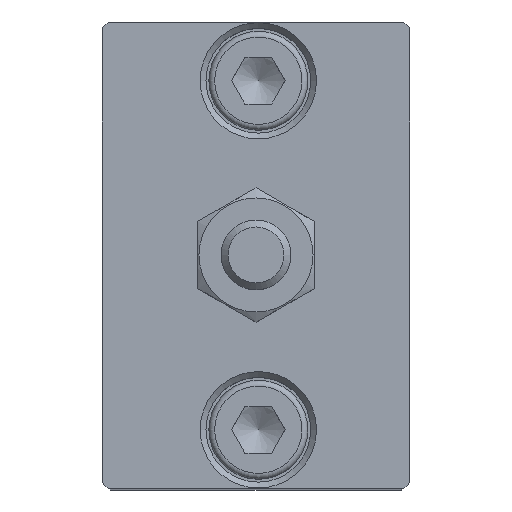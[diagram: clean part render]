
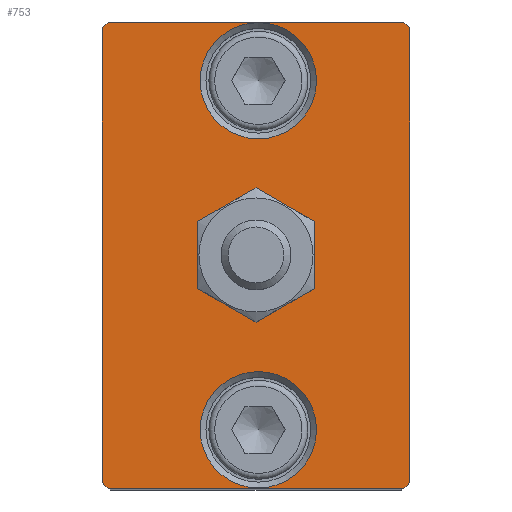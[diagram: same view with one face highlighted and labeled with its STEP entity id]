
A CAD part, top view. The second image highlights one B-rep face of the part: STEP entity #753.
In plain terms, the highlighted planar face has unit normal (0, 0, 1).
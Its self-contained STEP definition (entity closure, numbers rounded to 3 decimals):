
#526=CARTESIAN_POINT('',(-11.983,19.55,14.));
#527=VERTEX_POINT('',#526);
#528=CARTESIAN_POINT('',(-11.483,20.05,14.));
#529=VERTEX_POINT('',#528);
#530=CARTESIAN_POINT('',(-11.983,19.55,14.));
#531=DIRECTION('',(0.707,0.707,0.0));
#532=VECTOR('',#531,0.707);
#533=LINE('',#530,#532);
#534=EDGE_CURVE('',#527,#529,#533,.T.);
#638=CARTESIAN_POINT('',(13.917,20.05,14.));
#639=VERTEX_POINT('',#638);
#640=CARTESIAN_POINT('',(-11.483,20.05,14.));
#641=DIRECTION('',(1.0,0.0,0.0));
#642=VECTOR('',#641,25.4);
#643=LINE('',#640,#642);
#644=EDGE_CURVE('',#529,#639,#643,.T.);
#656=CARTESIAN_POINT('',(1.217,0.0,14.));
#657=DIRECTION('',(0.0,0.0,1.0));
#658=DIRECTION('',(1.0,0.0,0.0));
#659=AXIS2_PLACEMENT_3D('',#656,#657,#658);
#660=PLANE('',#659);
#661=ORIENTED_EDGE('',*,*,#534,.F.);
#662=CARTESIAN_POINT('',(-11.983,-19.55,14.));
#663=VERTEX_POINT('',#662);
#664=CARTESIAN_POINT('',(-11.983,-19.55,14.));
#665=DIRECTION('',(0.0,1.0,0.0));
#666=VECTOR('',#665,39.1);
#667=LINE('',#664,#666);
#668=EDGE_CURVE('',#663,#527,#667,.T.);
#669=ORIENTED_EDGE('',*,*,#668,.F.);
#670=CARTESIAN_POINT('',(-11.483,-20.05,14.));
#671=VERTEX_POINT('',#670);
#672=CARTESIAN_POINT('',(-11.483,-20.05,14.));
#673=DIRECTION('',(-0.707,0.707,0.0));
#674=VECTOR('',#673,0.707);
#675=LINE('',#672,#674);
#676=EDGE_CURVE('',#671,#663,#675,.T.);
#677=ORIENTED_EDGE('',*,*,#676,.F.);
#678=CARTESIAN_POINT('',(13.917,-20.05,14.));
#679=VERTEX_POINT('',#678);
#680=CARTESIAN_POINT('',(13.917,-20.05,14.));
#681=DIRECTION('',(-1.0,0.0,0.0));
#682=VECTOR('',#681,25.4);
#683=LINE('',#680,#682);
#684=EDGE_CURVE('',#679,#671,#683,.T.);
#685=ORIENTED_EDGE('',*,*,#684,.F.);
#686=CARTESIAN_POINT('',(14.417,-19.55,14.));
#687=VERTEX_POINT('',#686);
#688=CARTESIAN_POINT('',(14.417,-19.55,14.));
#689=DIRECTION('',(-0.707,-0.707,0.0));
#690=VECTOR('',#689,0.707);
#691=LINE('',#688,#690);
#692=EDGE_CURVE('',#687,#679,#691,.T.);
#693=ORIENTED_EDGE('',*,*,#692,.F.);
#694=CARTESIAN_POINT('',(14.417,19.55,14.));
#695=VERTEX_POINT('',#694);
#696=CARTESIAN_POINT('',(14.417,19.55,14.));
#697=DIRECTION('',(0.0,-1.0,0.0));
#698=VECTOR('',#697,39.1);
#699=LINE('',#696,#698);
#700=EDGE_CURVE('',#695,#687,#699,.T.);
#701=ORIENTED_EDGE('',*,*,#700,.F.);
#702=CARTESIAN_POINT('',(13.917,20.05,14.));
#703=DIRECTION('',(0.707,-0.707,0.0));
#704=VECTOR('',#703,0.707);
#705=LINE('',#702,#704);
#706=EDGE_CURVE('',#639,#695,#705,.T.);
#707=ORIENTED_EDGE('',*,*,#706,.F.);
#708=ORIENTED_EDGE('',*,*,#644,.F.);
#709=EDGE_LOOP('',(#661,#669,#677,#685,#693,#701,#707,#708));
#710=FACE_OUTER_BOUND('',#709,.T.);
#711=CARTESIAN_POINT('',(6.417,15.0,14.));
#712=VERTEX_POINT('',#711);
#713=CARTESIAN_POINT('',(1.417,15.0,14.));
#714=DIRECTION('',(0.0,0.0,1.0));
#715=DIRECTION('',(-1.0,0.0,0.0));
#716=AXIS2_PLACEMENT_3D('',#713,#714,#715);
#717=CIRCLE('',#716,5.0);
#718=EDGE_CURVE('',#712,#712,#717,.T.);
#719=ORIENTED_EDGE('',*,*,#718,.F.);
#720=EDGE_LOOP('',(#719));
#721=FACE_BOUND('',#720,.T.);
#722=CARTESIAN_POINT('',(1.217,-4.,14.));
#723=VERTEX_POINT('',#722);
#724=CARTESIAN_POINT('',(1.217,4.,14.));
#725=VERTEX_POINT('',#724);
#726=CARTESIAN_POINT('',(1.217,0.0,14.));
#727=DIRECTION('',(0.0,0.0,-1.0));
#728=DIRECTION('',(0.0,1.0,0.0));
#729=AXIS2_PLACEMENT_3D('',#726,#727,#728);
#730=CIRCLE('',#729,4.);
#731=EDGE_CURVE('',#723,#725,#730,.T.);
#732=ORIENTED_EDGE('',*,*,#731,.T.);
#733=CARTESIAN_POINT('',(1.217,0.0,14.));
#734=DIRECTION('',(0.0,0.0,-1.0));
#735=DIRECTION('',(0.0,1.0,0.0));
#736=AXIS2_PLACEMENT_3D('',#733,#734,#735);
#737=CIRCLE('',#736,4.);
#738=EDGE_CURVE('',#725,#723,#737,.T.);
#739=ORIENTED_EDGE('',*,*,#738,.T.);
#740=EDGE_LOOP('',(#732,#739));
#741=FACE_BOUND('',#740,.T.);
#742=CARTESIAN_POINT('',(6.417,-15.0,14.));
#743=VERTEX_POINT('',#742);
#744=CARTESIAN_POINT('',(1.417,-15.0,14.));
#745=DIRECTION('',(0.0,0.0,1.0));
#746=DIRECTION('',(-1.0,0.0,0.0));
#747=AXIS2_PLACEMENT_3D('',#744,#745,#746);
#748=CIRCLE('',#747,5.0);
#749=EDGE_CURVE('',#743,#743,#748,.T.);
#750=ORIENTED_EDGE('',*,*,#749,.F.);
#751=EDGE_LOOP('',(#750));
#752=FACE_BOUND('',#751,.T.);
#753=ADVANCED_FACE('',(#710,#721,#741,#752),#660,.T.);
